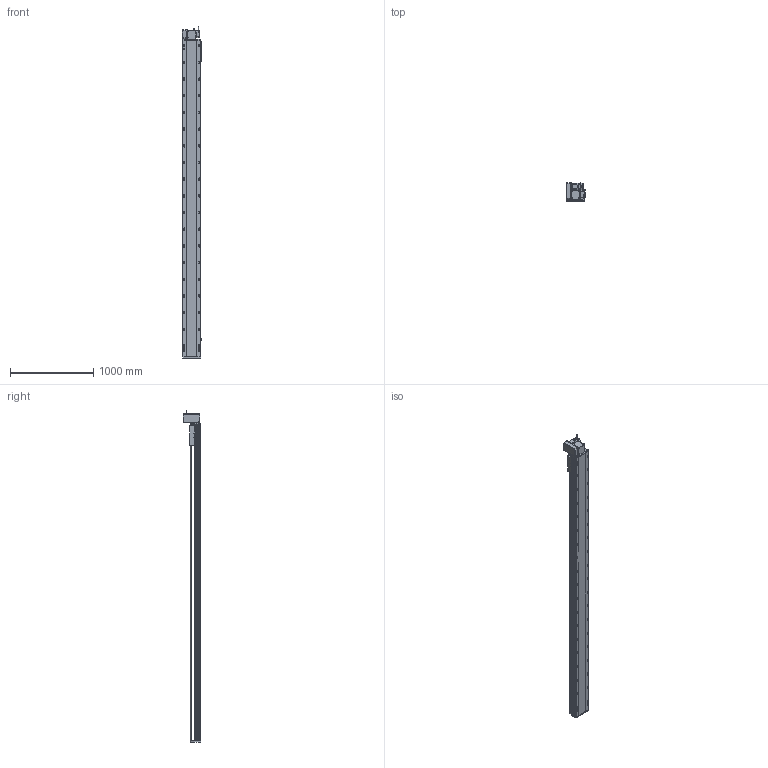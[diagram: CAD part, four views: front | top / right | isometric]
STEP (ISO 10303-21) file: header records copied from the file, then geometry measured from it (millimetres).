
FILE_DESCRIPTION (( 'STEP AP214' ), '1' );
FILE_NAME ('RTB22S-XX-3450-LW-M75-C4.STEP', '2025-12-12T07:08:07', ( '' ), ( '' ), 'SwSTEP 2.0', 'SolidWorks 2018', '' );
FILE_SCHEMA (( 'AUTOMOTIVE_DESIGN' ));
Length unit declared in the file: millimetre
Products named in the file (14): RTB22S-L-011菁釱^RTB22S-XX-XX-LW-M75-C4; RTB22S-GY-008-M75--萇儂啣^RTB22S-LW-々湍釱蚾饜_RTB22S-XX-XX-LW-M75-C4; RTB22S-GY-017P^RTB22S-LW-々湍釱蚾饜_RTB22S-XX-XX-LW-M75-C4; RTB22S-GY-005P^RTB22S-LW-々湍釱蚾饜_RTB22S-XX-XX-LW-M75-C4; RTB22S-L-004賑釱^RTB22S-XX-XX-LW-M75-C4; RTB22S-GY-014--々湍釱^RTB22S-LW-々湍釱蚾饜_RTB22S-XX-XX-LW-M75-C4; RTB22S-XX-3450-LW-M75-C4; RTB22S-LW-々湍釱蚾饜^RTB22S-XX-XX-LW-M75-C4; RTB22S-GY-007奻裔^RTB22S-XX-XX-LW-M75-C4; 750W萇儂^RTB22S-XX-XX-LW-M75-C4; RTB22S-GY-018P^RTB22S-LW-々湍釱蚾饜_RTB22S-XX-XX-LW-M75-C4; RTB22S-GY-001耜裔^RTB22S-XX-XX-LW-M75-C4; OMRON EE-SX672 传感器^RTB22S-XX-XX-LW-M75-C4; RTH22-GY-013外置感应片^RTB22S-XX-XX-LW-M75-C4
Assembly tree (16 placements, depth 3):
  RTB22S-XX-3450-LW-M75-C4
    RTB22S-L-011菁釱^RTB22S-XX-XX-LW-M75-C4
    RTB22S-GY-001耜裔^RTB22S-XX-XX-LW-M75-C4
    750W萇儂^RTB22S-XX-XX-LW-M75-C4
    RTB22S-GY-007奻裔^RTB22S-XX-XX-LW-M75-C4
    RTB22S-L-004賑釱^RTB22S-XX-XX-LW-M75-C4
    RTH22-GY-013外置感应片^RTB22S-XX-XX-LW-M75-C4
    OMRON EE-SX672 传感器^RTB22S-XX-XX-LW-M75-C4  x3
    RTB22S-LW-々湍釱蚾饜^RTB22S-XX-XX-LW-M75-C4
      RTB22S-GY-014--々湍釱^RTB22S-LW-々湍釱蚾饜_RTB22S-XX-XX-LW-M75-C4
      RTB22S-GY-017P^RTB22S-LW-々湍釱蚾饜_RTB22S-XX-XX-LW-M75-C4  x2
      RTB22S-GY-005P^RTB22S-LW-々湍釱蚾饜_RTB22S-XX-XX-LW-M75-C4
      RTB22S-GY-008-M75--萇儂啣^RTB22S-LW-々湍釱蚾饜_RTB22S-XX-XX-LW-M75-C4
      RTB22S-GY-018P^RTB22S-LW-々湍釱蚾饜_RTB22S-XX-XX-LW-M75-C4
Bounding box: 238.5 x 215.5 x 3982.2 mm (x, y, z)
Volume: 49827414.6 mm3; surface area: 5071881.3 mm2
Topology: 15 solids, 15 shells, 2199 faces, 5986 edges, 3812 vertices
Faces by surface type: plane 939, cylinder 766, bspline 296, cone 186, sphere 8, torus 4
Entity records: 60664 total; most frequent: CARTESIAN_POINT 16948, ORIENTED_EDGE 8664, DIRECTION 8546, EDGE_CURVE 4332, AXIS2_PLACEMENT_3D 3094, VERTEX_POINT 2816, LINE 2358, VECTOR 2358
